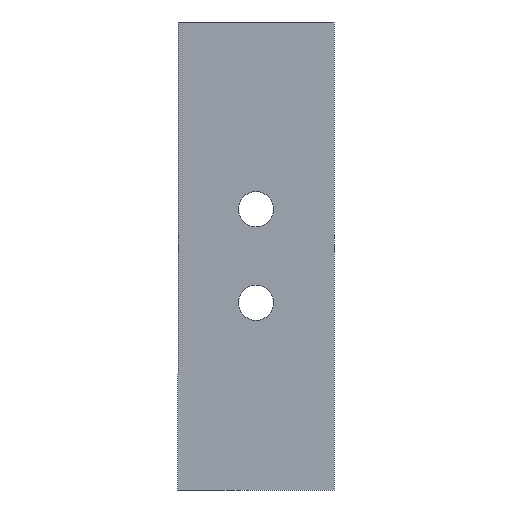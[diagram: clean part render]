
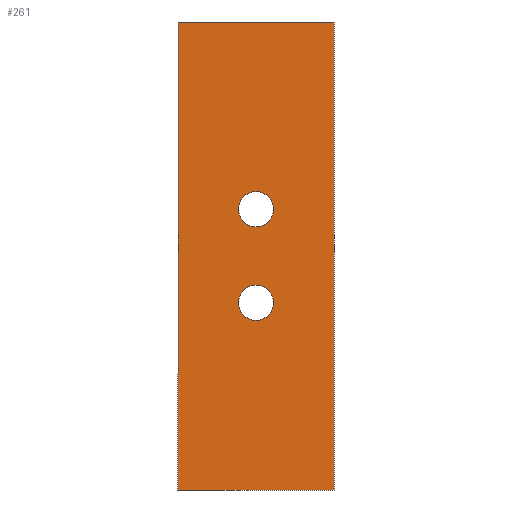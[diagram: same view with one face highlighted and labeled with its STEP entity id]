
A CAD part, front view. The second image highlights one B-rep face of the part: STEP entity #261.
In plain terms, the highlighted planar face has unit normal (0, -1, 0).
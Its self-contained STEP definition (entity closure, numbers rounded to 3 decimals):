
#1 = FACE_BOUND ( 'NONE', #330, .T. ) ;
#11 = ORIENTED_EDGE ( 'NONE', *, *, #232, .F. ) ;
#17 = VERTEX_POINT ( 'NONE', #258 ) ;
#18 = CIRCLE ( 'NONE', #216, 4.5 ) ;
#20 = VECTOR ( 'NONE', #252, 1000. ) ;
#27 = DIRECTION ( 'NONE',  ( 0., 0., 1. ) ) ;
#29 = CARTESIAN_POINT ( 'NONE',  ( -20., 0., -60. ) ) ;
#31 = ORIENTED_EDGE ( 'NONE', *, *, #181, .T. ) ;
#42 = CARTESIAN_POINT ( 'NONE',  ( 0., 0., 12. ) ) ;
#51 = CARTESIAN_POINT ( 'NONE',  ( 20., 0., -60. ) ) ;
#60 = CARTESIAN_POINT ( 'NONE',  ( 0., 0., 7.5 ) ) ;
#63 = CARTESIAN_POINT ( 'NONE',  ( -20., 0., 60. ) ) ;
#64 = VERTEX_POINT ( 'NONE', #107 ) ;
#83 = CARTESIAN_POINT ( 'NONE',  ( -20., 0., -60. ) ) ;
#85 = AXIS2_PLACEMENT_3D ( 'NONE', #42, #331, #305 ) ;
#86 = CARTESIAN_POINT ( 'NONE',  ( 0., 0., 0. ) ) ;
#88 = CARTESIAN_POINT ( 'NONE',  ( 20., 0., -60. ) ) ;
#97 = CARTESIAN_POINT ( 'NONE',  ( 20., 0., 60. ) ) ;
#106 = EDGE_CURVE ( 'NONE', #298, #177, #214, .T. ) ;
#107 = CARTESIAN_POINT ( 'NONE',  ( 0., 0., -7.5 ) ) ;
#108 = DIRECTION ( 'NONE',  ( -1., 0., 0. ) ) ;
#110 = FACE_BOUND ( 'NONE', #311, .T. ) ;
#114 = DIRECTION ( 'NONE',  ( 0., 0., 1. ) ) ;
#115 = ORIENTED_EDGE ( 'NONE', *, *, #183, .F. ) ;
#138 = CARTESIAN_POINT ( 'NONE',  ( -20., 0., 60. ) ) ;
#139 = EDGE_LOOP ( 'NONE', ( #334, #115, #11, #169 ) ) ;
#143 = CARTESIAN_POINT ( 'NONE',  ( 0., 0., 12. ) ) ;
#145 = ORIENTED_EDGE ( 'NONE', *, *, #220, .T. ) ;
#149 = VERTEX_POINT ( 'NONE', #346 ) ;
#154 = CIRCLE ( 'NONE', #85, 4.5 ) ;
#162 = EDGE_CURVE ( 'NONE', #177, #17, #265, .T. ) ;
#166 = CARTESIAN_POINT ( 'NONE',  ( 0., 0., 16.5 ) ) ;
#169 = ORIENTED_EDGE ( 'NONE', *, *, #162, .F. ) ;
#170 = DIRECTION ( 'NONE',  ( 0., 0., 1. ) ) ;
#176 = CIRCLE ( 'NONE', #226, 4.5 ) ;
#177 = VERTEX_POINT ( 'NONE', #88 ) ;
#181 = EDGE_CURVE ( 'NONE', #149, #64, #18, .T. ) ;
#183 = EDGE_CURVE ( 'NONE', #277, #298, #295, .T. ) ;
#186 = VECTOR ( 'NONE', #108, 1000. ) ;
#193 = DIRECTION ( 'NONE',  ( 0., 1., 0. ) ) ;
#199 = LINE ( 'NONE', #83, #20 ) ;
#214 = LINE ( 'NONE', #51, #224 ) ;
#216 = AXIS2_PLACEMENT_3D ( 'NONE', #329, #227, #299 ) ;
#220 = EDGE_CURVE ( 'NONE', #274, #231, #229, .T. ) ;
#224 = VECTOR ( 'NONE', #248, 1000. ) ;
#226 = AXIS2_PLACEMENT_3D ( 'NONE', #281, #309, #170 ) ;
#227 = DIRECTION ( 'NONE',  ( 0., 1., 0. ) ) ;
#229 = CIRCLE ( 'NONE', #235, 4.5 ) ;
#231 = VERTEX_POINT ( 'NONE', #166 ) ;
#232 = EDGE_CURVE ( 'NONE', #17, #277, #199, .T. ) ;
#235 = AXIS2_PLACEMENT_3D ( 'NONE', #143, #325, #27 ) ;
#247 = VECTOR ( 'NONE', #251, 1000. ) ;
#248 = DIRECTION ( 'NONE',  ( 0., 0., -1. ) ) ;
#251 = DIRECTION ( 'NONE',  ( 1., 0., 0. ) ) ;
#252 = DIRECTION ( 'NONE',  ( 0., 0., 1. ) ) ;
#258 = CARTESIAN_POINT ( 'NONE',  ( -20., 0., -60. ) ) ;
#261 = ADVANCED_FACE ( 'NONE', ( #1, #110, #297 ), #324, .F. ) ;
#265 = LINE ( 'NONE', #29, #186 ) ;
#272 = AXIS2_PLACEMENT_3D ( 'NONE', #86, #193, #114 ) ;
#274 = VERTEX_POINT ( 'NONE', #60 ) ;
#277 = VERTEX_POINT ( 'NONE', #63 ) ;
#281 = CARTESIAN_POINT ( 'NONE',  ( 0., 0., -12. ) ) ;
#295 = LINE ( 'NONE', #138, #247 ) ;
#297 = FACE_OUTER_BOUND ( 'NONE', #139, .T. ) ;
#298 = VERTEX_POINT ( 'NONE', #97 ) ;
#299 = DIRECTION ( 'NONE',  ( 0., 0., 1. ) ) ;
#300 = ORIENTED_EDGE ( 'NONE', *, *, #341, .T. ) ;
#302 = EDGE_CURVE ( 'NONE', #64, #149, #176, .T. ) ;
#305 = DIRECTION ( 'NONE',  ( 0., 0., 1. ) ) ;
#309 = DIRECTION ( 'NONE',  ( 0., 1., 0. ) ) ;
#311 = EDGE_LOOP ( 'NONE', ( #300, #145 ) ) ;
#324 = PLANE ( 'NONE',  #272 ) ;
#325 = DIRECTION ( 'NONE',  ( 0., 1., 0. ) ) ;
#329 = CARTESIAN_POINT ( 'NONE',  ( 0., 0., -12. ) ) ;
#330 = EDGE_LOOP ( 'NONE', ( #340, #31 ) ) ;
#331 = DIRECTION ( 'NONE',  ( 0., 1., 0. ) ) ;
#334 = ORIENTED_EDGE ( 'NONE', *, *, #106, .F. ) ;
#340 = ORIENTED_EDGE ( 'NONE', *, *, #302, .T. ) ;
#341 = EDGE_CURVE ( 'NONE', #231, #274, #154, .T. ) ;
#346 = CARTESIAN_POINT ( 'NONE',  ( 0., 0., -16.5 ) ) ;
